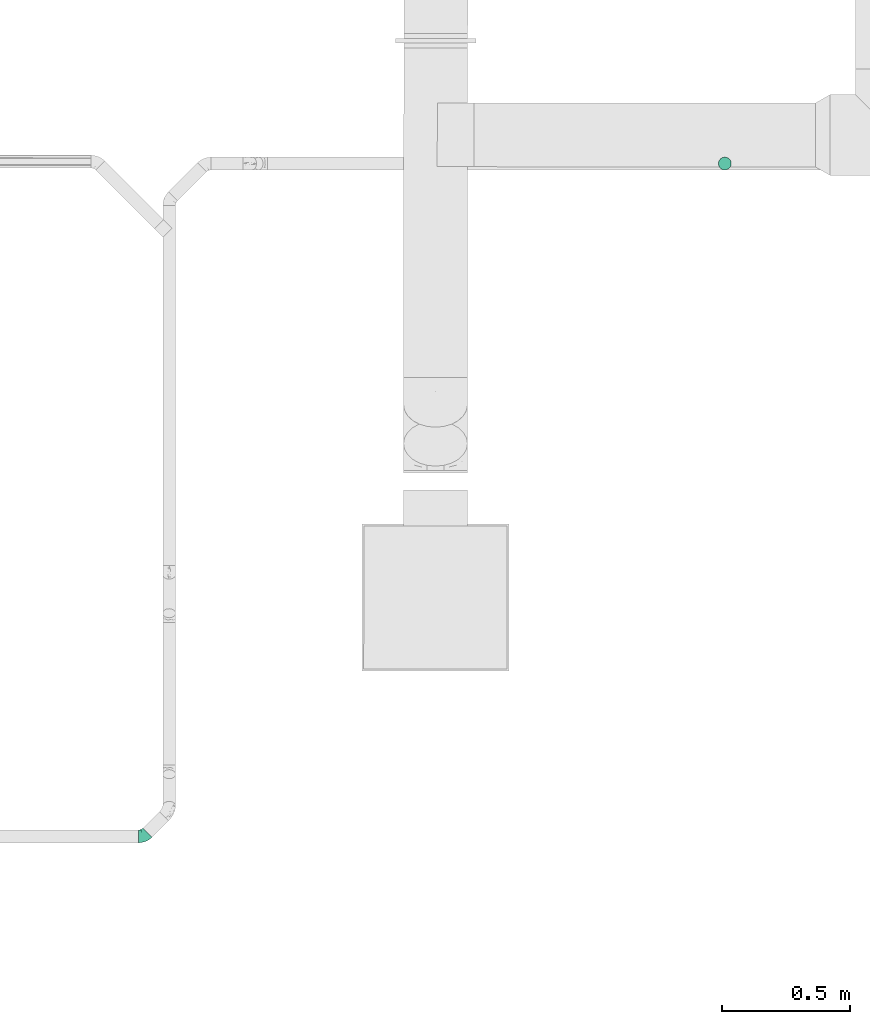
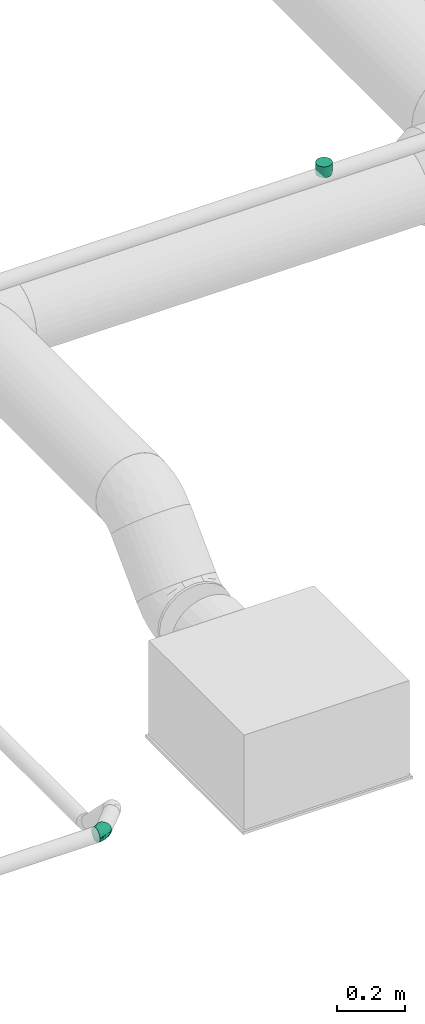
# One storey, part 63 of 63: 2 flow fittings.
"""IFC2X3 building model written with IfcOpenShell, lengths in millimetres."""

from ifc_helpers import new_model, entity, si_unit, converted_unit, derived_unit, direction, frame, origin_with_axes, place, context, subcontext, project, spatial, open_shell, surface_model, source, transform, mapped, type_object, element, save


model = new_model("IFC2X3")

# Units and contexts
model_context = context("Model", 3, precision=0.01, world=frame((0.0, 4.29681676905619e-09, 0.0)), true_north=direction((4.01073788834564e-13, 1.0)))
plan_context = context("Plan", 3, precision=0.01, world=frame((0.0, 4.29681676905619e-09, 0.0)), true_north=direction((4.01073788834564e-13, 1.0)))
body_context = subcontext(model_context, "Body", "Model", "MODEL_VIEW")
ifc_project = project(units=[converted_unit("PLANEANGLEUNIT", "DEGREE", entity("IfcPositiveLengthMeasure", 0.0174532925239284), si_unit("PLANEANGLEUNIT", "RADIAN"), dimensions=[0, 0, 0, 0, 0, 0, 0]), si_unit("AREAUNIT", "SQUARE_METRE"), si_unit("LENGTHUNIT", "METRE", prefix="MILLI"), si_unit("MASSUNIT", "GRAM", prefix="KILO"), si_unit("POWERUNIT", "WATT"), si_unit("PRESSUREUNIT", "PASCAL"), si_unit("FORCEUNIT", "NEWTON", prefix="KILO"), si_unit("ELECTRICVOLTAGEUNIT", "VOLT"), si_unit("ELECTRICCURRENTUNIT", "AMPERE"), si_unit("THERMODYNAMICTEMPERATUREUNIT", "DEGREE_CELSIUS"), si_unit("TIMEUNIT", "SECOND"), si_unit("VOLUMEUNIT", "CUBIC_METRE"), derived_unit("LINEARVELOCITYUNIT", [(si_unit("LENGTHUNIT", "METRE"), 1), (si_unit("TIMEUNIT", "SECOND"), -1)]), derived_unit("VOLUMETRICFLOWRATEUNIT", [(si_unit("VOLUMEUNIT", "CUBIC_METRE"), 1), (si_unit("TIMEUNIT", "SECOND"), -1)]), derived_unit("THERMALTRANSMITTANCEUNIT", [(si_unit("POWERUNIT", "WATT"), 1), (si_unit("THERMODYNAMICTEMPERATUREUNIT", "KELVIN"), -1), (si_unit("AREAUNIT", "SQUARE_METRE"), -1)]), derived_unit("SOUNDPRESSUREUNIT", [(si_unit("PRESSUREUNIT", "PASCAL"), 1)])], contexts=[model_context, plan_context])

# Site, building, storey
site_placement = place(None, frame((0.0, -4.29681676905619e-09, 0.0), z_axis=(0.0, 0.0, 1.0), x_axis=(1.0, 0.0, 0.0)))
site = spatial("IfcSite", under=ifc_project, at=site_placement, CompositionType="ELEMENT")
building_placement = place(site_placement, frame((0.0, 4.29681676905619e-09, 0.0), z_axis=(0.0, 0.0, 1.0), x_axis=(1.0, 0.0, 0.0)))
building = spatial("IfcBuilding", under=site, at=building_placement, Name="mc-building", CompositionType="ELEMENT")
storey_placement = place(building_placement, frame((0.0, 0.0, 210900.0), z_axis=(0.0, 0.0, 1.0), x_axis=(1.0, 0.0, 0.0)))
storey = spatial("IfcBuildingStorey", under=building, at=storey_placement, Name="Nivå F", CompositionType="ELEMENT", Elevation=210900.0)

# Flow fittings
duct_fitting_type_1 = type_object("IfcDuctFittingType", Name="magicirc_elbow_full_radius_001", PredefinedType="BEND")
shared_shape_1 = source(origin_with_axes(), body_context, "Body", "SurfaceModel", [
    surface_model("IfcShellBasedSurfaceModel", [(-20.71068, 6.47048, -24.14815), (-20.71068, 0.0, -25.0), (-20.71068, 24.14815, -6.47048), (-20.71068, 12.5, -21.65064), (-20.71068, 21.65064, -12.5), (-20.71068, 17.67767, -17.67767), (-20.71068, -17.67767, -17.67767), (-20.71068, -12.5, -21.65064), (-20.71068, -6.47048, -24.14815), (-20.71068, -21.65064, -12.5), (-20.71068, -24.14815, -6.47048), (-20.71068, -12.5, 21.65064), (-20.71068, -25.0, 0.0), (-20.71068, -24.14815, 6.47048), (-20.71068, 24.14815, 6.47048), (-20.71068, 25.0, 0.0), (-20.71068, 6.47048, 24.14815), (-20.71068, 21.65064, 12.5), (-20.71068, 17.67767, 17.67767), (-20.71068, 12.5, 21.65064), (-20.71068, -21.65064, 12.5), (-20.71068, -17.67767, 17.67767), (-20.71068, -6.47048, 24.14815), (-20.71068, 0.0, 25.0), (2.14466, 27.14466, -17.67767), (-0.66465, 29.95397, -12.5), (-2.43066, 31.71998, -6.47048), (19.21998, 10.06934, -24.14815), (27.14466, 2.14466, -17.67767), (23.4835, 5.80583, -21.65064), (14.64466, 14.64466, -25.0), (31.71998, -2.43066, -6.47048), (29.95397, -0.66465, -12.5), (31.71998, -2.43066, 6.47048), (27.14466, 2.14466, 17.67767), (29.95397, -0.66465, 12.5), (10.06934, 19.21998, 24.14815), (14.64466, 14.64466, 25.0), (19.21998, 10.06934, 24.14815), (-9.90594, -9.16729, 22.84872), (-5.53086, -14.12942, 19.29098), (2.56694, -6.19714, 22.53372), (-8.0728, -19.12027, 14.63846), (19.2284, -7.81174, 14.63846), (-7.46138, -2.40706, 24.66879), (-9.60579, 10.40318, 23.37148), (-2.37784, 5.74061, 24.91215), (-12.52615, 3.46428, 24.84829), (0.74206, 15.02947, 23.33394), (4.51942, 11.83388, 24.63638), (6.36735, -15.37213, 13.93174), (23.4835, 5.80583, 21.65064), (13.48681, 0.5223, 22.84872), (-10.29888, 24.86369, 10.27108), (-11.02493, 20.96619, 15.77668), (-7.1013, 17.14405, 20.41013), (2.15218, -21.0168, 4.41941), (11.42886, -17.32864, 4.41941), (7.39264, -17.84741, 8.69962), (-6.36005, -22.14548, 0.0), (-7.04491, -23.31893, 4.55451), (24.09339, -9.5634, 4.80838), (18.46353, -12.1242, 8.68186), (-10.01361, 26.7882, 5.2528), (-4.48258, -21.62879, 8.68186), (5.80583, 23.4835, 21.65064), (2.14466, 27.14466, 17.67767), (6.97804, 3.57394, 24.66879), (13.90192, -6.0801, 19.29098), (-0.66465, 29.95397, 12.5), (-2.43066, 31.71998, 6.47048), (7.99058, -19.29096, 0.0), (20.15645, -11.16199, 0.0), (32.32233, -3.03301, 0.0), (-11.14359, 26.90301, 0.0), (-3.03301, 32.32233, 0.0), (4.1962, -10.13052, 19.93611), (-7.46138, -2.40706, -24.66879), (13.33931, -16.38294, -4.41941), (4.17178, -20.33463, -4.41941), (7.39264, -17.84741, -8.69961), (6.97804, 3.57394, -24.66879), (-11.15216, 10.10272, -23.33394), (-11.56353, 5.1721, -24.63638), (-7.02953, 22.62114, -15.77668), (13.90192, -6.0801, -19.29098), (-10.29888, 24.86369, -10.27108), (18.46353, -12.1242, -8.68186), (-11.86143, 26.02281, -5.2528), (5.80583, 23.4835, -21.65064), (10.06934, 19.21998, -24.14815), (-0.56384, 14.14848, -23.37148), (-10.27426, -23.79894, -4.80838), (-4.48258, -21.62879, -8.68186), (6.36735, -15.37213, -13.93174), (19.2284, -7.81174, -14.63846), (-8.0728, -19.12027, -14.63846), (-5.53086, -14.12942, -19.29098), (4.1962, -10.13052, -19.93611), (-9.90594, -9.16729, -22.84872), (2.56694, -6.19714, -22.53372), (13.48681, 0.5223, -22.84872), (-2.37784, 5.74061, -24.91215), (-7.1013, 17.14405, -20.41013), (21.47048, -11.50747, -4.55451), (6.40771, 11.30694, -24.84829)], [open_shell([[[0, 1, 2]], [[3, 0, 2]], [[2, 4, 5]], [[3, 2, 5]], [[6, 2, 1]], [[7, 6, 8]], [[6, 1, 8]], [[9, 10, 6]], [[11, 6, 10]], [[10, 12, 13]], [[2, 6, 11]], [[14, 15, 16]], [[17, 14, 18]], [[14, 16, 19]], [[18, 14, 19]], [[11, 16, 15]], [[20, 21, 13]], [[11, 13, 21]], [[10, 13, 11]], [[11, 22, 16]], [[22, 23, 16]], [[15, 2, 11]], [[24, 25, 26]], [[27, 28, 29]], [[27, 30, 28]], [[28, 31, 32]], [[33, 34, 35]], [[36, 37, 38]], [[39, 40, 41]], [[21, 42, 40]], [[11, 21, 40]], [[35, 34, 43]], [[23, 22, 44]], [[22, 11, 39]], [[19, 16, 45]], [[46, 47, 44]], [[23, 47, 16]], [[36, 48, 49]], [[40, 42, 50]], [[51, 38, 52]], [[53, 17, 54]], [[55, 18, 19]], [[56, 57, 58]], [[59, 56, 60]], [[61, 33, 62]], [[53, 63, 14]], [[20, 13, 64]], [[15, 14, 63]], [[14, 17, 53]], [[21, 20, 42]], [[45, 55, 19]], [[64, 58, 50]], [[12, 59, 60]], [[65, 66, 55]], [[37, 49, 67]], [[34, 51, 68]], [[69, 70, 53]], [[67, 38, 37]], [[56, 59, 71]], [[34, 68, 43]], [[46, 49, 48]], [[68, 51, 52]], [[20, 64, 42]], [[72, 61, 57]], [[33, 61, 73]], [[47, 45, 16]], [[63, 53, 70]], [[74, 63, 75]], [[43, 50, 62]], [[40, 76, 41]], [[41, 67, 44]], [[36, 65, 48]], [[41, 52, 67]], [[53, 54, 69]], [[46, 44, 67]], [[66, 69, 54]], [[55, 45, 48]], [[39, 44, 22]], [[17, 18, 54]], [[33, 35, 62]], [[50, 42, 64]], [[76, 50, 68]], [[50, 43, 68]], [[62, 35, 43]], [[18, 55, 54]], [[66, 54, 55]], [[55, 48, 65]], [[46, 48, 45]], [[40, 39, 11]], [[44, 39, 41]], [[67, 52, 38]], [[68, 52, 41]], [[67, 49, 46]], [[37, 36, 49]], [[44, 47, 23]], [[45, 47, 46]], [[56, 58, 64]], [[62, 50, 58]], [[56, 64, 60]], [[57, 56, 71]], [[72, 57, 71]], [[62, 58, 57]], [[64, 13, 60]], [[12, 60, 13]], [[50, 76, 40]], [[68, 41, 76]], [[75, 63, 70]], [[63, 74, 15]], [[57, 61, 62]], [[73, 61, 72]], [[8, 1, 77]], [[78, 79, 80]], [[30, 27, 81]], [[82, 83, 0]], [[4, 84, 5]], [[29, 28, 85]], [[86, 84, 4]], [[32, 31, 87]], [[2, 88, 86]], [[89, 90, 91]], [[92, 10, 93]], [[3, 82, 0]], [[59, 92, 79]], [[94, 95, 87]], [[10, 92, 12]], [[96, 6, 97]], [[6, 7, 97]], [[98, 94, 97]], [[10, 9, 93]], [[6, 96, 9]], [[99, 7, 8]], [[96, 94, 93]], [[100, 77, 81]], [[101, 81, 27]], [[15, 74, 88]], [[78, 72, 71]], [[75, 26, 88]], [[102, 81, 77]], [[24, 89, 103]], [[86, 4, 2]], [[25, 84, 86]], [[99, 97, 7]], [[91, 103, 89]], [[83, 77, 1]], [[103, 91, 82]], [[5, 103, 3]], [[72, 78, 104]], [[30, 105, 90]], [[101, 27, 29]], [[87, 80, 94]], [[28, 32, 95]], [[85, 100, 101]], [[85, 95, 94]], [[100, 99, 77]], [[73, 72, 104]], [[25, 24, 84]], [[105, 91, 90]], [[95, 85, 28]], [[85, 98, 100]], [[105, 81, 102]], [[102, 83, 82]], [[26, 86, 88]], [[32, 87, 95]], [[26, 25, 86]], [[94, 96, 97]], [[93, 9, 96]], [[24, 103, 84]], [[5, 84, 103]], [[103, 82, 3]], [[102, 82, 91]], [[77, 99, 8]], [[97, 99, 100]], [[85, 101, 29]], [[81, 101, 100]], [[77, 83, 102]], [[1, 0, 83]], [[81, 105, 30]], [[91, 105, 102]], [[78, 80, 87]], [[93, 94, 80]], [[78, 87, 104]], [[79, 78, 71]], [[59, 79, 71]], [[93, 80, 79]], [[87, 31, 104]], [[73, 104, 31]], [[94, 98, 85]], [[97, 100, 98]], [[15, 88, 2]], [[88, 74, 75]], [[79, 92, 93]], [[12, 92, 59]], [[30, 90, 89]], [[30, 89, 24]], [[30, 24, 28]], [[75, 28, 24]], [[31, 28, 73]], [[28, 51, 73]], [[75, 24, 26]], [[75, 70, 69]], [[75, 69, 36]], [[65, 36, 69]], [[65, 69, 66]], [[38, 28, 36]], [[34, 33, 51]], [[51, 33, 73]], [[38, 51, 28]], [[28, 75, 36]]])]),
])
flow_fitting_1_placement = place(storey_placement, frame((522161.00505, 449851.43695, 4458.79999999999), z_axis=(0.0, 0.000125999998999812, 0.999999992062), x_axis=(1.0, 0.0, 0.0)))
element("IfcFlowFitting", 1, at=flow_fitting_1_placement, inside=storey, type_object=duct_fitting_type_1, Name="magicirc_elbow_full_radius_001", context=body_context, shape_type="MappedRepresentation", body=[
    mapped(shared_shape_1, transform((0.0, 0.0, 0.0), scale=1.0)),
])
duct_fitting_type_2 = type_object("IfcDuctFittingType", Name="magicirc_tapoutlet_001", PredefinedType="CONNECTOR")
shared_shape_2 = source(origin_with_axes(), body_context, "Body", "SurfaceModel", [
    surface_model("IfcShellBasedSurfaceModel", [(20.0, 17.67767, -17.67767), (20.0, 21.65064, -12.5), (20.0, 25.0, 0.0), (20.0, 12.5, -21.65064), (20.0, -25.0, 0.0), (20.0, -24.14815, -6.47048), (20.0, -24.14815, 6.47048), (20.0, 6.47048, -24.14815), (20.0, 0.0, -25.0), (0.0, 0.0, -25.0), (0.0, 6.47048, -24.14815), (20.0, -6.47048, -24.14815), (0.0, -6.47048, -24.14815), (20.0, -12.5, -21.65064), (20.0, -17.67767, -17.67767), (20.0, -21.65064, -12.5), (20.0, 24.14815, 6.47048), (20.0, 24.14815, -6.47048), (20.0, -21.65064, 12.5), (20.0, -17.67767, 17.67767), (20.0, -12.5, 21.65064), (20.0, 6.47048, 24.14815), (20.0, -6.47048, 24.14815), (20.0, 21.65064, 12.5), (20.0, 17.67767, 17.67767), (20.0, 12.5, 21.65064), (20.0, 0.0, 25.0), (0.0, 0.0, 25.0), (0.0, -6.47048, 24.14815), (0.0, -17.67767, 17.67767), (0.0, -12.5, 21.65064), (0.0, -21.65064, 12.5), (0.0, -24.14815, 6.47048), (0.0, -25.0, 0.0), (0.0, -24.14815, -6.47048), (0.0, -17.67767, -17.67767), (0.0, -21.65064, -12.5), (0.0, -12.5, -21.65064), (0.0, 17.67767, -17.67767), (0.0, 12.5, -21.65064), (0.0, 21.65064, -12.5), (0.0, 24.14815, -6.47048), (0.0, 25.0, 0.0), (0.0, 24.14815, 6.47048), (0.0, 17.67767, 17.67767), (0.0, 21.65064, 12.5), (0.0, 12.5, 21.65064), (0.0, 6.47048, 24.14815), (-18.904, -17.67767, -17.67767), (-18.904, -25.0, 0.0), (-18.904, -12.5, -21.65064), (-18.904, -21.65064, -12.5), (-18.904, 25.0, 0.0), (-18.904, 24.14815, -6.47048), (-18.904, 24.14815, 6.47048), (-18.904, 0.0, -25.0), (-18.904, 6.47048, -24.14815), (-18.904, 12.5, -21.65064), (-18.904, -6.47048, -24.14815), (-18.904, 17.67767, -17.67767), (-18.904, 21.65064, -12.5), (-18.904, -24.14815, -6.47048), (-18.904, -24.14815, 6.47048), (-18.904, -21.65064, 12.5), (-18.904, 0.0, 25.0), (-18.904, -17.67767, 17.67767), (-18.904, -12.5, 21.65064), (-18.904, -6.47048, 24.14815), (-18.904, 17.67767, 17.67767), (-18.904, 21.65064, 12.5), (-18.904, 12.5, 21.65064), (-18.904, 6.47048, 24.14815)], [open_shell([[[0, 1, 2]], [[0, 2, 3]], [[4, 5, 6]], [[7, 8, 9]], [[3, 7, 10]], [[9, 8, 11]], [[12, 11, 13]], [[8, 7, 11]], [[11, 6, 13]], [[14, 6, 15]], [[13, 6, 14]], [[11, 2, 16]], [[7, 3, 2]], [[17, 2, 1]], [[2, 11, 7]], [[5, 15, 6]], [[11, 18, 6]], [[19, 18, 11]], [[20, 19, 21]], [[21, 19, 11]], [[21, 22, 20]], [[23, 24, 11]], [[11, 16, 23]], [[25, 11, 24]], [[11, 25, 21]], [[21, 26, 22]], [[22, 26, 27]], [[20, 22, 28]], [[28, 22, 27]], [[29, 19, 30]], [[20, 28, 30]], [[20, 30, 19]], [[6, 18, 31]], [[4, 6, 32]], [[31, 18, 29]], [[6, 31, 32]], [[4, 32, 33]], [[19, 29, 18]], [[5, 4, 33]], [[15, 5, 34]], [[34, 5, 33]], [[35, 14, 36]], [[15, 34, 36]], [[15, 36, 14]], [[13, 35, 37]], [[11, 12, 9]], [[12, 13, 37]], [[14, 35, 13]], [[10, 7, 9]], [[38, 0, 39]], [[3, 10, 39]], [[3, 39, 0]], [[17, 1, 40]], [[2, 17, 41]], [[40, 1, 38]], [[17, 40, 41]], [[2, 41, 42]], [[0, 38, 1]], [[16, 2, 42]], [[23, 16, 43]], [[43, 16, 42]], [[44, 24, 45]], [[23, 43, 45]], [[23, 45, 24]], [[21, 25, 46]], [[26, 21, 47]], [[46, 25, 44]], [[21, 46, 47]], [[26, 47, 27]], [[24, 44, 25]], [[6, 11, 18]], [[19, 11, 21]], [[16, 23, 11]], [[11, 23, 24]], [[24, 25, 11]], [[21, 11, 25]], [[48, 49, 50]], [[48, 51, 49]], [[52, 53, 54]], [[10, 9, 55]], [[39, 10, 56]], [[39, 56, 57]], [[55, 9, 12]], [[58, 12, 37]], [[50, 58, 37]], [[58, 49, 55]], [[50, 49, 58]], [[59, 55, 54]], [[55, 59, 57]], [[57, 56, 55]], [[60, 54, 53]], [[60, 59, 54]], [[49, 51, 61]], [[55, 62, 63]], [[64, 55, 63]], [[64, 65, 66]], [[64, 63, 65]], [[66, 67, 64]], [[68, 69, 55]], [[54, 55, 69]], [[55, 70, 68]], [[71, 70, 55]], [[64, 71, 55]], [[49, 62, 55]], [[28, 27, 64]], [[30, 28, 67]], [[67, 28, 64]], [[65, 29, 66]], [[30, 67, 66]], [[30, 66, 29]], [[32, 31, 63]], [[33, 32, 62]], [[63, 31, 65]], [[32, 63, 62]], [[33, 62, 49]], [[29, 65, 31]], [[34, 33, 49]], [[36, 34, 61]], [[61, 34, 49]], [[48, 35, 51]], [[36, 61, 51]], [[36, 51, 35]], [[50, 37, 48]], [[12, 58, 55]], [[35, 48, 37]], [[56, 10, 55]], [[59, 38, 57]], [[39, 57, 38]], [[41, 40, 60]], [[42, 41, 53]], [[60, 40, 59]], [[41, 60, 53]], [[42, 53, 52]], [[38, 59, 40]], [[43, 42, 52]], [[45, 43, 54]], [[54, 43, 52]], [[68, 44, 69]], [[45, 54, 69]], [[45, 69, 44]], [[47, 46, 70]], [[27, 47, 71]], [[70, 46, 68]], [[47, 70, 71]], [[27, 71, 64]], [[44, 68, 46]], [[55, 68, 69]], [[68, 55, 70]], [[70, 55, 71]], [[55, 49, 62]]])]),
])
flow_fitting_2_placement = place(storey_placement, frame((524432.60298, 452482.42641, 4450.0), z_axis=(-1.0, 0.0, 0.0), x_axis=(0.0, 0.0, 1.0)))
element("IfcFlowFitting", 2, at=flow_fitting_2_placement, inside=storey, type_object=duct_fitting_type_2, Name="magicirc_tapoutlet_001", context=body_context, shape_type="MappedRepresentation", body=[
    mapped(shared_shape_2, transform((0.0, 0.0, 0.0), scale=1.0)),
])

save(model, "model.ifc")
